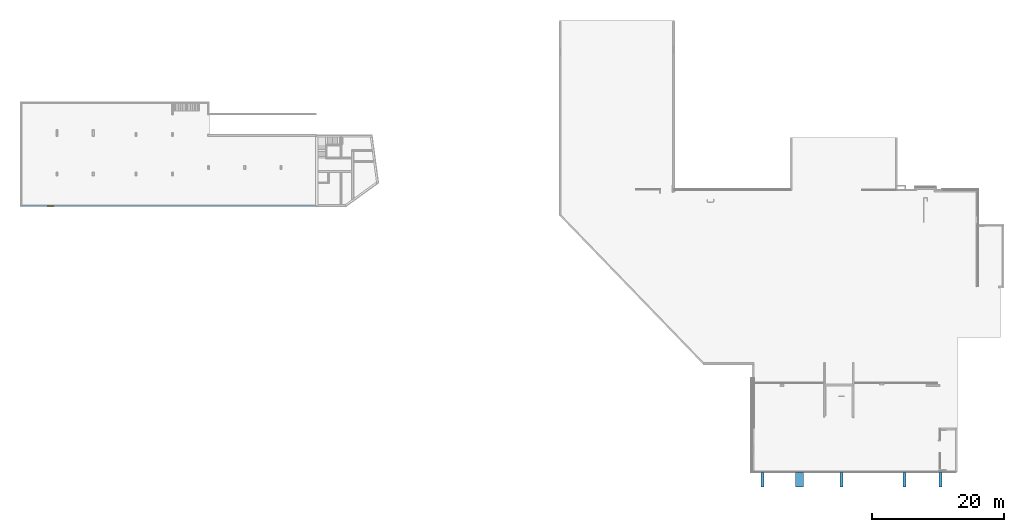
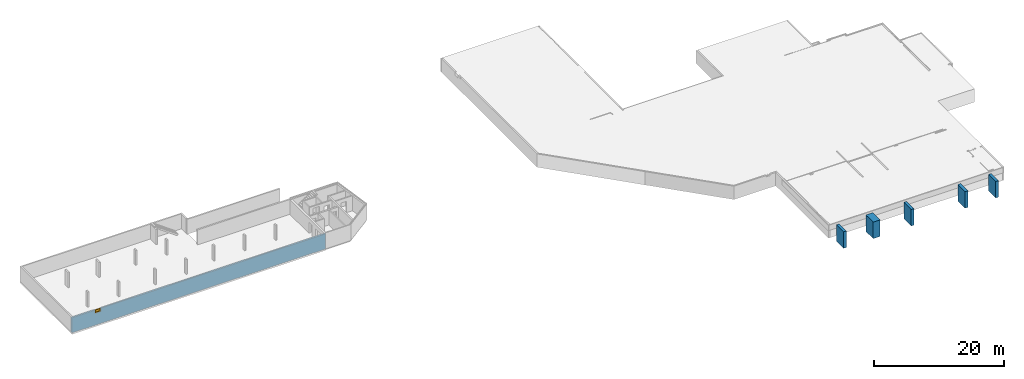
# One storey, part 7 of 10: 5 footings, 1 window, 1 opening, plus 1 element that does not belong to this part.
"""IFC2X3 building model written with IfcOpenShell, lengths in millimetres."""

from ifc_helpers import new_model, entity, si_unit, converted_unit, frame, frame_2d, origin, origin_with_axes, place, context, subcontext, project, spatial, rectangle, extrude, faceted_brep, material, layer, layer_set, layer_usage, type_object, element, fill, save


model = new_model("IFC2X3")

# Units and contexts
model_context = context("Model", 3, precision=1e-05, world=origin())
body_context = subcontext(model_context, "Body", "Model", "MODEL_VIEW")
ifc_project = project(units=[si_unit("LENGTHUNIT", "METRE", prefix="MILLI"), converted_unit("PLANEANGLEUNIT", "DEGREE", entity("IfcPlaneAngleMeasure", 0.0174532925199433), si_unit("PLANEANGLEUNIT", "RADIAN"), dimensions=[0, 0, 0, 0, 0, 0, 0]), si_unit("AREAUNIT", "SQUARE_METRE"), si_unit("VOLUMEUNIT", "CUBIC_METRE")], contexts=[model_context])

# Building, storey
building_placement = place(None, origin())
building = spatial("IfcBuilding", under=ifc_project, at=building_placement, Name="Gebäude", CompositionType="ELEMENT")
storey_placement = place(building_placement, frame((0.0, 0.0, -3205.0), z_axis=(0.0, 0.0, 1.0), x_axis=(1.0, 0.0, 0.0)))
storey = spatial("IfcBuildingStorey", under=building, at=storey_placement, Name="KG.- Grundriss", CompositionType="ELEMENT", Elevation=-3205.0)

# Footings
ifc_material_1 = material(Name="<Unnamed Material>")
footing_1_placement = place(storey_placement, frame((248707.684201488, 84975.05644806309, 2255.0), z_axis=(0.0, 0.0, 1.0), x_axis=(0.0, -1.0, 0.0)))
element("IfcFooting", 1, at=footing_1_placement, inside=storey, material=ifc_material_1, Name="<Unnamed Element>", PredefinedType="STRIP_FOOTING", context=body_context, shape_type="Brep", body=[
    faceted_brep([(0.001853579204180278, 1250.0, 0.0), (0.0, 0.0, 0.0), (2229.990265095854, 0.0, 0.0), (2229.990265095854, 1250.0, 0.0), (0.0, 0.0, 3100.0), (0.001853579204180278, 1250.0, 3100.0), (2229.990265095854, 1250.0, 3100.0), (2229.990265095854, 0.0, 3100.0), (0.0, 0.0, 0.0), (0.001853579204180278, 1250.0, 0.0), (0.001853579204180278, 1250.0, 3100.0), (0.0, 0.0, 3100.0), (2229.990265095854, 0.0, 0.0), (0.0, 0.0, 0.0), (0.0, 0.0, 3100.0), (2229.990265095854, 0.0, 3100.0), (2229.990265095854, 1250.0, 0.0), (2229.990265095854, 0.0, 0.0), (2229.990265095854, 0.0, 3100.0), (2229.990265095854, 1250.0, 3100.0), (0.001853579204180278, 1250.0, 0.0), (2229.990265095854, 1250.0, 0.0), (2229.990265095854, 1250.0, 3100.0), (0.001853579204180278, 1250.0, 3100.0)], [[[0, 1, 2, 3]], [[4, 5, 6, 7]], [[8, 9, 10, 11]], [[12, 13, 14, 15]], [[16, 17, 18, 19]], [[20, 21, 22, 23]]], orient=[[False], [False], [False], [False], [False], [False]]),
])
ifc_material_2 = material(Name="<Unnamed Material>")
footing_2_placement = place(storey_placement, frame((270467.7065789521, 84975.02418092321, 2255.0), z_axis=(0.0, 0.0, 1.0), x_axis=(0.0, -1.0, 0.0)))
element("IfcFooting", 2, at=footing_2_placement, inside=storey, material=ifc_material_2, Name="<Unnamed Element>", PredefinedType="STRIP_FOOTING", context=body_context, shape_type="Brep", body=[
    faceted_brep([(0.0007414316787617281, 500.0, 0.0), (0.0, 0.0, 0.0), (2228.957997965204, 0.0, 0.0), (2228.957997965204, 500.0, 0.0), (0.0, 0.0, 3100.0), (0.0007414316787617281, 500.0, 3100.0), (2228.957997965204, 500.0, 3100.0), (2228.957997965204, 0.0, 3100.0), (0.0, 0.0, 0.0), (0.0007414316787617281, 500.0, 0.0), (0.0007414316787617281, 500.0, 3100.0), (0.0, 0.0, 3100.0), (2228.957997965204, 0.0, 0.0), (0.0, 0.0, 0.0), (0.0, 0.0, 3100.0), (2228.957997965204, 0.0, 3100.0), (2228.957997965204, 500.0, 0.0), (2228.957997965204, 0.0, 0.0), (2228.957997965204, 0.0, 3100.0), (2228.957997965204, 500.0, 3100.0), (0.0007414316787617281, 500.0, 0.0), (2228.957997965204, 500.0, 0.0), (2228.957997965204, 500.0, 3100.0), (0.0007414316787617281, 500.0, 3100.0)], [[[0, 1, 2, 3]], [[4, 5, 6, 7]], [[8, 9, 10, 11]], [[12, 13, 14, 15]], [[16, 17, 18, 19]], [[20, 21, 22, 23]]], orient=[[False], [False], [False], [False], [False], [False]]),
])
ifc_material_3 = material(Name="<Unnamed Material>")
footing_3_placement = place(storey_placement, frame((265032.7065789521, 84975.03224028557, 2255.0), z_axis=(0.0, 0.0, 1.0), x_axis=(0.0, -1.0, 0.0)))
element("IfcFooting", 3, at=footing_3_placement, inside=storey, material=ifc_material_3, Name="<Unnamed Element>", PredefinedType="STRIP_FOOTING", context=body_context, shape_type="Brep", body=[
    faceted_brep([(0.0007414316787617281, 500.0, 0.0), (0.0, 0.0, 0.0), (2229.966057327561, 0.0, 0.0), (2229.966057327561, 500.0, 0.0), (0.0, 0.0, 3100.0), (0.0007414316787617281, 500.0, 3100.0), (2229.966057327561, 500.0, 3100.0), (2229.966057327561, 0.0, 3100.0), (0.0, 0.0, 0.0), (0.0007414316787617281, 500.0, 0.0), (0.0007414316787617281, 500.0, 3100.0), (0.0, 0.0, 3100.0), (2229.966057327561, 0.0, 0.0), (0.0, 0.0, 0.0), (0.0, 0.0, 3100.0), (2229.966057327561, 0.0, 3100.0), (2229.966057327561, 500.0, 0.0), (2229.966057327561, 0.0, 0.0), (2229.966057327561, 0.0, 3100.0), (2229.966057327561, 500.0, 3100.0), (0.0007414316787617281, 500.0, 0.0), (2229.966057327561, 500.0, 0.0), (2229.966057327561, 500.0, 3100.0), (0.0007414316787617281, 500.0, 3100.0)], [[[0, 1, 2, 3]], [[4, 5, 6, 7]], [[8, 9, 10, 11]], [[12, 13, 14, 15]], [[16, 17, 18, 19]], [[20, 21, 22, 23]]], orient=[[False], [False], [False], [False], [False], [False]]),
])
ifc_material_4 = material(Name="<Unnamed Material>")
footing_4_placement = place(storey_placement, frame((255467.6829130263, 84975.04642390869, 2255.0), z_axis=(0.0, 0.0, 1.0), x_axis=(0.0, -1.0, 0.0)))
element("IfcFooting", 4, at=footing_4_placement, inside=storey, material=ifc_material_4, Name="<Unnamed Element>", PredefinedType="STRIP_FOOTING", context=body_context, shape_type="Brep", body=[
    faceted_brep([(0.0007414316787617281, 500.0, 0.0), (0.0, 0.0, 0.0), (2229.975196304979, 0.0, 0.0), (2229.975196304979, 500.0, 0.0), (0.0, 0.0, 3100.0), (0.0007414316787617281, 500.0, 3100.0), (2229.975196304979, 500.0, 3100.0), (2229.975196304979, 0.0, 3100.0), (0.0, 0.0, 0.0), (0.0007414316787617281, 500.0, 0.0), (0.0007414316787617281, 500.0, 3100.0), (0.0, 0.0, 3100.0), (2229.975196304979, 0.0, 0.0), (0.0, 0.0, 0.0), (0.0, 0.0, 3100.0), (2229.975196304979, 0.0, 3100.0), (2229.975196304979, 500.0, 0.0), (2229.975196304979, 0.0, 0.0), (2229.975196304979, 0.0, 3100.0), (2229.975196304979, 500.0, 3100.0), (0.0007414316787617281, 500.0, 0.0), (2229.975196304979, 500.0, 0.0), (2229.975196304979, 500.0, 3100.0), (0.0007414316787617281, 500.0, 3100.0)], [[[0, 1, 2, 3]], [[4, 5, 6, 7]], [[8, 9, 10, 11]], [[12, 13, 14, 15]], [[16, 17, 18, 19]], [[20, 21, 22, 23]]], orient=[[False], [False], [False], [False], [False], [False]]),
])
ifc_material_5 = material(Name="<Unnamed Material>")
footing_5_placement = place(storey_placement, frame((243452.7052904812, 84975.06424047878, 2255.0), z_axis=(0.0, 0.0, 1.0), x_axis=(0.0, -1.0, 0.0)))
element("IfcFooting", 5, at=footing_5_placement, inside=storey, material=ifc_material_5, Name="<Unnamed Element>", PredefinedType="STRIP_FOOTING", context=body_context, shape_type="Brep", body=[
    faceted_brep([(0.0007414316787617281, 500.0, 0.0), (0.0, 0.0, 0.0), (2229.998057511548, 0.0, 0.0), (2229.998057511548, 500.0, 0.0), (0.0, 0.0, 3100.0), (0.0007414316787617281, 500.0, 3100.0), (2229.998057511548, 500.0, 3100.0), (2229.998057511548, 0.0, 3100.0), (0.0, 0.0, 0.0), (0.0007414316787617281, 500.0, 0.0), (0.0007414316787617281, 500.0, 3100.0), (0.0, 0.0, 3100.0), (2229.998057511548, 0.0, 0.0), (0.0, 0.0, 0.0), (0.0, 0.0, 3100.0), (2229.998057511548, 0.0, 3100.0), (2229.998057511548, 500.0, 0.0), (2229.998057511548, 0.0, 0.0), (2229.998057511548, 0.0, 3100.0), (2229.998057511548, 500.0, 3100.0), (0.0007414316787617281, 500.0, 0.0), (2229.998057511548, 500.0, 0.0), (2229.998057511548, 500.0, 3100.0), (0.0007414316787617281, 500.0, 3100.0)], [[[0, 1, 2, 3]], [[4, 5, 6, 7]], [[8, 9, 10, 11]], [[12, 13, 14, 15]], [[16, 17, 18, 19]], [[20, 21, 22, 23]]], orient=[[False], [False], [False], [False], [False], [False]]),
])

# Wall, opening, window
ifc_material_6 = material(Name="Stb-Wand")
ifc_layer = layer(ifc_material_6, 250.0)
ifc_layer_set = layer_set([ifc_layer])
ifc_layer_usage = layer_usage(ifc_layer_set, "AXIS2", "POSITIVE", 0.0)
wall_placement = place(storey_placement, frame((130992.7928067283, 125274.8877324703, 0.0), z_axis=(0.0, 0.0, 1.0), x_axis=(1.0, -8.082601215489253e-15, 0.0)))
wall = element("IfcWallStandardCase", 6, at=wall_placement, inside=storey, material=ifc_layer_usage, Name="<Unnamed Element>", context=body_context, shape_type="SweptSolid", body=[
    extrude(rectangle(XDim=45010.0, YDim=250.0, at=frame_2d((22505.0, 125.0), x_axis=(1.0, 0.0))), origin_with_axes(), (0.0, 0.0, 1.0), 2805.0),
])
opening_placement = place(wall_placement, frame((4115.0, 1.673470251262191e-12, 2205.0), z_axis=(0.0, 1.0, 0.0), x_axis=(0.0, 0.0, 1.0)))
opening = element("IfcOpeningElement", 7, at=opening_placement, cuts=wall, Name="Fensteröffnung", ObjectType="Opening", context=body_context, shape_type="SweptSolid", body=[
    extrude(rectangle(XDim=600.0, YDim=1010.0, at=frame_2d((300.0, 505.0), x_axis=(1.0, 0.0))), origin_with_axes(), (0.0, 0.0, 1.0), 250.0),
])
ifc_material_7 = material()
window_style = type_object("IfcWindowStyle", Name="Fenster", ConstructionType="NOTDEFINED", OperationType="SINGLE_PANEL", ParameterTakesPrecedence=True, Sizeable=False)
window_placement = place(opening_placement, frame((0.0, 0.0, 100.0), z_axis=(1.0, 0.0, 0.0), x_axis=(0.0, 1.0, 0.0)))
window = element("IfcWindow", 8, at=window_placement, inside=storey, type_object=window_style, material=ifc_material_7, Name="Fenster", OverallHeight=600.0, OverallWidth=1010.0, context=body_context, shape_type="Brep", body=[
    faceted_brep([(960.0000000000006, 50.0000000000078, 0.0), (1010.000000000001, 50.00000000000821, 0.0), (1010.000000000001, 50.00000000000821, 600.0), (960.0000000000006, 50.0000000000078, 600.0), (1010.000000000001, 8.206768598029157e-12, 0.0), (960.0000000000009, 7.8017592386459e-12, 0.0), (960.0000000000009, 7.8017592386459e-12, 600.0), (1010.000000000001, 8.206768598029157e-12, 600.0), (1010.000000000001, 50.00000000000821, 0.0), (960.0000000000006, 50.0000000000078, 0.0), (960.0000000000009, 7.8017592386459e-12, 0.0), (1010.000000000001, 8.206768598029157e-12, 0.0), (1010.000000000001, 50.00000000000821, 600.0), (1010.000000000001, 50.00000000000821, 0.0), (1010.000000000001, 8.206768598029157e-12, 0.0), (1010.000000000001, 8.206768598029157e-12, 600.0), (960.0000000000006, 50.0000000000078, 600.0), (1010.000000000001, 50.00000000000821, 600.0), (1010.000000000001, 8.206768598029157e-12, 600.0), (960.0000000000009, 7.8017592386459e-12, 600.0), (960.0000000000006, 50.0000000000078, 0.0), (960.0000000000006, 50.0000000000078, 600.0), (960.0000000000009, 7.8017592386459e-12, 600.0), (960.0000000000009, 7.8017592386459e-12, 0.0)], [[[0, 1, 2, 3]], [[4, 5, 6, 7]], [[8, 9, 10, 11]], [[12, 13, 14, 15]], [[16, 17, 18, 19]], [[20, 21, 22, 23]]], orient=[[False], [False], [False], [False], [False], [False]]),
    faceted_brep([(50.00000000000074, 50.00000000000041, 600.0), (7.324857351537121e-13, 50.0, 600.0), (7.324857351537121e-13, 50.0, 0.0), (50.00000000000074, 50.00000000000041, 0.0), (1.136615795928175e-12, 0.0, 600.0), (50.00000000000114, 4.050093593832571e-13, 600.0), (50.00000000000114, 4.050093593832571e-13, 0.0), (1.136615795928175e-12, 0.0, 0.0), (7.324857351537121e-13, 50.0, 600.0), (50.00000000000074, 50.00000000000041, 600.0), (50.00000000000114, 4.050093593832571e-13, 600.0), (1.136615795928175e-12, 0.0, 600.0), (7.324857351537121e-13, 50.0, 0.0), (7.324857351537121e-13, 50.0, 600.0), (1.136615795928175e-12, 0.0, 600.0), (1.136615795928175e-12, 0.0, 0.0), (50.00000000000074, 50.00000000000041, 0.0), (7.324857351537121e-13, 50.0, 0.0), (1.136615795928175e-12, 0.0, 0.0), (50.00000000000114, 4.050093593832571e-13, 0.0), (50.00000000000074, 50.00000000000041, 600.0), (50.00000000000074, 50.00000000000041, 0.0), (50.00000000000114, 4.050093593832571e-13, 0.0), (50.00000000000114, 4.050093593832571e-13, 600.0)], [[[0, 1, 2, 3]], [[4, 5, 6, 7]], [[8, 9, 10, 11]], [[12, 13, 14, 15]], [[16, 17, 18, 19]], [[20, 21, 22, 23]]], orient=[[False], [False], [False], [False], [False], [False]]),
    faceted_brep([(960.0000000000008, 50.00000000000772, 550.0), (960.0000000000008, 50.00000000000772, 600.0), (50.00000000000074, 50.00000000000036, 600.0), (50.00000000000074, 50.00000000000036, 550.0), (960.0000000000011, 7.716494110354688e-12, 600.0), (960.0000000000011, 7.716494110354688e-12, 550.0), (50.00000000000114, 3.623767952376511e-13, 550.0), (50.00000000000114, 3.623767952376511e-13, 600.0), (960.0000000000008, 50.00000000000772, 600.0), (960.0000000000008, 50.00000000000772, 550.0), (960.0000000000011, 7.716494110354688e-12, 550.0), (960.0000000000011, 7.716494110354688e-12, 600.0), (50.00000000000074, 50.00000000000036, 600.0), (960.0000000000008, 50.00000000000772, 600.0), (960.0000000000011, 7.716494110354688e-12, 600.0), (50.00000000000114, 3.623767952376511e-13, 600.0), (50.00000000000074, 50.00000000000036, 550.0), (50.00000000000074, 50.00000000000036, 600.0), (50.00000000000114, 3.623767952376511e-13, 600.0), (50.00000000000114, 3.623767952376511e-13, 550.0), (960.0000000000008, 50.00000000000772, 550.0), (50.00000000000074, 50.00000000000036, 550.0), (50.00000000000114, 3.623767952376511e-13, 550.0), (960.0000000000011, 7.716494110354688e-12, 550.0)], [[[0, 1, 2, 3]], [[4, 5, 6, 7]], [[8, 9, 10, 11]], [[12, 13, 14, 15]], [[16, 17, 18, 19]], [[20, 21, 22, 23]]], orient=[[False], [False], [False], [False], [False], [False]]),
    faceted_brep([(50.00000000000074, 50.00000000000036, 50.0), (50.00000000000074, 50.00000000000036, 0.0), (960.0000000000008, 50.00000000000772, 0.0), (960.0000000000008, 50.00000000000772, 50.0), (50.00000000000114, 3.623767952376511e-13, 0.0), (50.00000000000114, 3.623767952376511e-13, 50.0), (960.0000000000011, 7.716494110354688e-12, 50.0), (960.0000000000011, 7.716494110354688e-12, 0.0), (50.00000000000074, 50.00000000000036, 0.0), (50.00000000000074, 50.00000000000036, 50.0), (50.00000000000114, 3.623767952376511e-13, 50.0), (50.00000000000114, 3.623767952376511e-13, 0.0), (960.0000000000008, 50.00000000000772, 0.0), (50.00000000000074, 50.00000000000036, 0.0), (50.00000000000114, 3.623767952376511e-13, 0.0), (960.0000000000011, 7.716494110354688e-12, 0.0), (960.0000000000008, 50.00000000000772, 50.0), (960.0000000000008, 50.00000000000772, 0.0), (960.0000000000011, 7.716494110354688e-12, 0.0), (960.0000000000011, 7.716494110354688e-12, 50.0), (50.00000000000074, 50.00000000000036, 50.0), (960.0000000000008, 50.00000000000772, 50.0), (960.0000000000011, 7.716494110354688e-12, 50.0), (50.00000000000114, 3.623767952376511e-13, 50.0)], [[[0, 1, 2, 3]], [[4, 5, 6, 7]], [[8, 9, 10, 11]], [[12, 13, 14, 15]], [[16, 17, 18, 19]], [[20, 21, 22, 23]]], orient=[[False], [False], [False], [False], [False], [False]]),
    faceted_brep([(960.000000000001, 25.00000000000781, 50.0), (910.000000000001, 25.0000000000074, 50.0), (910.000000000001, 25.0000000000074, 550.0), (960.000000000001, 25.00000000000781, 550.0), (910.0000000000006, 75.00000000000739, 50.0), (960.0000000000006, 75.0000000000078, 50.0), (960.0000000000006, 75.0000000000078, 550.0), (910.0000000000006, 75.00000000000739, 550.0), (910.000000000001, 25.0000000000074, 50.0), (960.000000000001, 25.00000000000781, 50.0), (960.0000000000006, 75.0000000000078, 50.0), (910.0000000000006, 75.00000000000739, 50.0), (910.000000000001, 25.0000000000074, 550.0), (910.000000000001, 25.0000000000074, 50.0), (910.0000000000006, 75.00000000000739, 50.0), (910.0000000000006, 75.00000000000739, 550.0), (960.000000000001, 25.00000000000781, 550.0), (910.000000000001, 25.0000000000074, 550.0), (910.0000000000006, 75.00000000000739, 550.0), (960.0000000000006, 75.0000000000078, 550.0), (960.000000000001, 25.00000000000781, 50.0), (960.000000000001, 25.00000000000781, 550.0), (960.0000000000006, 75.0000000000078, 550.0), (960.0000000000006, 75.0000000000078, 50.0)], [[[0, 1, 2, 3]], [[4, 5, 6, 7]], [[8, 9, 10, 11]], [[12, 13, 14, 15]], [[16, 17, 18, 19]], [[20, 21, 22, 23]]], orient=[[False], [False], [False], [False], [False], [False]]),
    faceted_brep([(50.00000000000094, 25.00000000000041, 550.0), (100.0000000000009, 25.00000000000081, 550.0), (100.0000000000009, 25.00000000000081, 50.0), (50.00000000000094, 25.00000000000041, 50.0), (100.0000000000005, 75.00000000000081, 550.0), (50.00000000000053, 75.0000000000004, 550.0), (50.00000000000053, 75.0000000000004, 50.0), (100.0000000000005, 75.00000000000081, 50.0), (100.0000000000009, 25.00000000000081, 550.0), (50.00000000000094, 25.00000000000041, 550.0), (50.00000000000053, 75.0000000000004, 550.0), (100.0000000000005, 75.00000000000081, 550.0), (100.0000000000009, 25.00000000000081, 50.0), (100.0000000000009, 25.00000000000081, 550.0), (100.0000000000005, 75.00000000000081, 550.0), (100.0000000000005, 75.00000000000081, 50.0), (50.00000000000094, 25.00000000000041, 50.0), (100.0000000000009, 25.00000000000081, 50.0), (100.0000000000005, 75.00000000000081, 50.0), (50.00000000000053, 75.0000000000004, 50.0), (50.00000000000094, 25.00000000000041, 550.0), (50.00000000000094, 25.00000000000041, 50.0), (50.00000000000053, 75.0000000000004, 50.0), (50.00000000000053, 75.0000000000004, 550.0)], [[[0, 1, 2, 3]], [[4, 5, 6, 7]], [[8, 9, 10, 11]], [[12, 13, 14, 15]], [[16, 17, 18, 19]], [[20, 21, 22, 23]]], orient=[[False], [False], [False], [False], [False], [False]]),
    faceted_brep([(910.000000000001, 25.00000000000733, 550.0), (910.000000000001, 25.00000000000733, 500.0), (100.0000000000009, 25.00000000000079, 500.0), (100.0000000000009, 25.00000000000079, 550.0), (910.0000000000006, 75.00000000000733, 500.0), (910.0000000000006, 75.00000000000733, 550.0), (100.0000000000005, 75.0000000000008, 550.0), (100.0000000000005, 75.0000000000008, 500.0), (910.000000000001, 25.00000000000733, 500.0), (910.000000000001, 25.00000000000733, 550.0), (910.0000000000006, 75.00000000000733, 550.0), (910.0000000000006, 75.00000000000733, 500.0), (100.0000000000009, 25.00000000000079, 500.0), (910.000000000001, 25.00000000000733, 500.0), (910.0000000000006, 75.00000000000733, 500.0), (100.0000000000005, 75.0000000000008, 500.0), (100.0000000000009, 25.00000000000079, 550.0), (100.0000000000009, 25.00000000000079, 500.0), (100.0000000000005, 75.0000000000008, 500.0), (100.0000000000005, 75.0000000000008, 550.0), (910.000000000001, 25.00000000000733, 550.0), (100.0000000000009, 25.00000000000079, 550.0), (100.0000000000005, 75.0000000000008, 550.0), (910.0000000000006, 75.00000000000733, 550.0)], [[[0, 1, 2, 3]], [[4, 5, 6, 7]], [[8, 9, 10, 11]], [[12, 13, 14, 15]], [[16, 17, 18, 19]], [[20, 21, 22, 23]]], orient=[[False], [False], [False], [False], [False], [False]]),
    faceted_brep([(100.0000000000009, 25.00000000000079, 50.0), (100.0000000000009, 25.00000000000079, 100.0), (910.000000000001, 25.00000000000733, 100.0), (910.000000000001, 25.00000000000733, 50.0), (100.0000000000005, 75.0000000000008, 100.0), (100.0000000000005, 75.0000000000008, 50.0), (910.0000000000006, 75.00000000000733, 50.0), (910.0000000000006, 75.00000000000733, 100.0), (100.0000000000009, 25.00000000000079, 100.0), (100.0000000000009, 25.00000000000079, 50.0), (100.0000000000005, 75.0000000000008, 50.0), (100.0000000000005, 75.0000000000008, 100.0), (910.000000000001, 25.00000000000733, 100.0), (100.0000000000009, 25.00000000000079, 100.0), (100.0000000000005, 75.0000000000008, 100.0), (910.0000000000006, 75.00000000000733, 100.0), (910.000000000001, 25.00000000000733, 50.0), (910.000000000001, 25.00000000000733, 100.0), (910.0000000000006, 75.00000000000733, 100.0), (910.0000000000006, 75.00000000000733, 50.0), (100.0000000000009, 25.00000000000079, 50.0), (910.000000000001, 25.00000000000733, 50.0), (910.0000000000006, 75.00000000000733, 50.0), (100.0000000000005, 75.0000000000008, 50.0)], [[[0, 1, 2, 3]], [[4, 5, 6, 7]], [[8, 9, 10, 11]], [[12, 13, 14, 15]], [[16, 17, 18, 19]], [[20, 21, 22, 23]]], orient=[[False], [False], [False], [False], [False], [False]]),
    faceted_brep([(910.0000000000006, 50.00000000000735, 100.0), (910.0000000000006, 50.00000000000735, 500.0), (100.0000000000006, 50.00000000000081, 500.0), (100.0000000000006, 50.00000000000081, 100.0), (910.0000000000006, 49.00000000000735, 100.0), (100.0000000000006, 49.00000000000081, 100.0), (100.0000000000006, 49.00000000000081, 500.0), (910.0000000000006, 49.00000000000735, 500.0), (910.0000000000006, 50.00000000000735, 100.0), (910.0000000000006, 49.00000000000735, 100.0), (910.0000000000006, 49.00000000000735, 500.0), (910.0000000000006, 50.00000000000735, 500.0), (910.0000000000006, 50.00000000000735, 500.0), (910.0000000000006, 49.00000000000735, 500.0), (100.0000000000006, 49.00000000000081, 500.0), (100.0000000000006, 50.00000000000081, 500.0), (100.0000000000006, 50.00000000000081, 500.0), (100.0000000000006, 49.00000000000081, 500.0), (100.0000000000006, 49.00000000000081, 100.0), (100.0000000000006, 50.00000000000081, 100.0), (100.0000000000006, 50.00000000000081, 100.0), (100.0000000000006, 49.00000000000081, 100.0), (910.0000000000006, 49.00000000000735, 100.0), (910.0000000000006, 50.00000000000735, 100.0)], [[[0, 1, 2, 3]], [[4, 5, 6, 7]], [[8, 9, 10, 11]], [[12, 13, 14, 15]], [[16, 17, 18, 19]], [[20, 21, 22, 23]]], orient=[[False], [False], [False], [False], [False], [False]]),
])
fill(opening, window)

save(model, "model.ifc")
